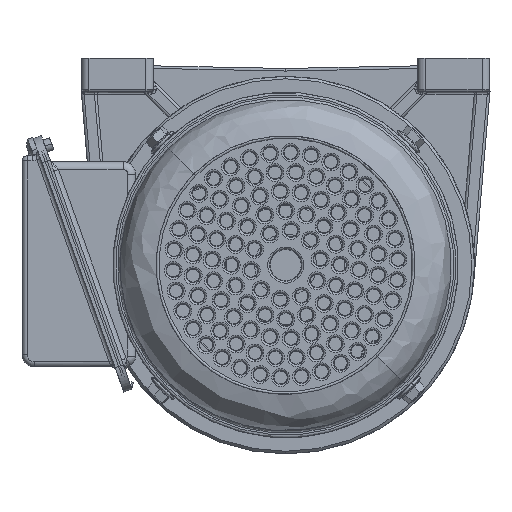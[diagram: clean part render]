
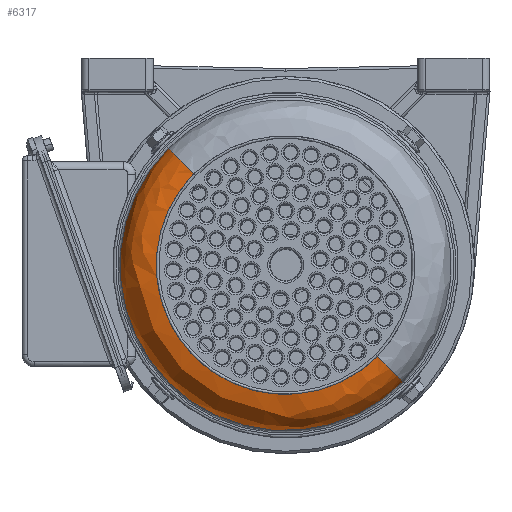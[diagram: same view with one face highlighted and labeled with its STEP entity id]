
A CAD part, front view. The second image highlights one B-rep face of the part: STEP entity #6317.
In plain terms, the highlighted free-form (B-spline) face has degree [3, 3] with [4, 4] control points.
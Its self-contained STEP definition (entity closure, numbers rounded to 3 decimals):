
#6268 = VERTEX_POINT ( 'NONE', #15583 ) ;
#6269 = VERTEX_POINT ( 'NONE', #15581 ) ;
#6307 = EDGE_CURVE ( 'NONE', #6308, #6269, #15629, .T. ) ;
#6308 = VERTEX_POINT ( 'NONE', #15624 ) ;
#6309 = ORIENTED_EDGE ( 'NONE', *, *, #6310, .F. ) ;
#6310 = EDGE_CURVE ( 'NONE', #6268, #6308, #15622, .T. ) ;
#6317 = ADVANCED_FACE ( 'NONE', ( #15652 ), #15637, .T. ) ;
#6318 = ORIENTED_EDGE ( 'NONE', *, *, #6319, .F. ) ;
#6319 = EDGE_CURVE ( 'NONE', #6320, #6268, #15636, .T. ) ;
#6320 = VERTEX_POINT ( 'NONE', #15664 ) ;
#6331 = EDGE_LOOP ( 'NONE', ( #6318, #6333, #6335, #6309 ) ) ;
#6333 = ORIENTED_EDGE ( 'NONE', *, *, #6334, .T. ) ;
#6334 = EDGE_CURVE ( 'NONE', #6320, #6269, #15657, .T. ) ;
#6335 = ORIENTED_EDGE ( 'NONE', *, *, #6307, .F. ) ;
#15581 = CARTESIAN_POINT ( 'NONE',  ( -64., 0., 29. ) ) ;
#15583 = CARTESIAN_POINT ( 'NONE',  ( 50., 0., 43. ) ) ;
#15618 = DIRECTION ( 'NONE',  ( 1., 0., 0. ) ) ;
#15619 = DIRECTION ( 'NONE',  ( 0., 1., 0. ) ) ;
#15620 = CARTESIAN_POINT ( 'NONE',  ( 50., 0., 29. ) ) ;
#15621 = AXIS2_PLACEMENT_3D ( 'NONE', #15620, #15619, #15618 ) ;
#15622 = CIRCLE ( 'NONE', #15621, 14. ) ;
#15624 = CARTESIAN_POINT ( 'NONE',  ( 64., 0., 29. ) ) ;
#15625 = DIRECTION ( 'NONE',  ( 1., 0., 0. ) ) ;
#15626 = DIRECTION ( 'NONE',  ( 0., 0., -1. ) ) ;
#15627 = CARTESIAN_POINT ( 'NONE',  ( 0., 0., 29. ) ) ;
#15628 = AXIS2_PLACEMENT_3D ( 'NONE', #15627, #15626, #15625 ) ;
#15629 = CIRCLE ( 'NONE', #15628, 64. ) ;
#15630 = CARTESIAN_POINT ( 'NONE',  ( -50., -100., 43. ) ) ;
#15631 = CARTESIAN_POINT ( 'NONE',  ( -50., 0., 43. ) ) ;
#15632 = DIRECTION ( 'NONE',  ( 1., 0., 0. ) ) ;
#15633 = DIRECTION ( 'NONE',  ( 0., 0., 1. ) ) ;
#15634 = CARTESIAN_POINT ( 'NONE',  ( 0., 0., 43. ) ) ;
#15635 = AXIS2_PLACEMENT_3D ( 'NONE', #15634, #15633, #15632 ) ;
#15636 = CIRCLE ( 'NONE', #15635, 50. ) ;
#15637 =( BOUNDED_SURFACE ( )  B_SPLINE_SURFACE ( 3, 3, ( 
 ( #15631, #15630, #15678, #15677 ),
 ( #15676, #15675, #15674, #15673 ),
 ( #15672, #15671, #15670, #15669 ),
 ( #15668, #15667, #15666, #15665 ) ),
 .UNSPECIFIED., .F., .F., .F. ) 
 B_SPLINE_SURFACE_WITH_KNOTS ( ( 4, 4 ),
 ( 4, 4 ),
 ( 0., 1. ),
 ( 0., 1. ),
 .UNSPECIFIED. ) 
 GEOMETRIC_REPRESENTATION_ITEM ( )  RATIONAL_B_SPLINE_SURFACE ( (
 ( 1., 0.333, 0.333, 1.),
 ( 0.805, 0.268, 0.268, 0.805),
 ( 0.805, 0.268, 0.268, 0.805),
 ( 1., 0.333, 0.333, 1.) ) ) 
 REPRESENTATION_ITEM ( '' )  SURFACE ( )  );
#15652 = FACE_OUTER_BOUND ( 'NONE', #6331, .T. ) ;
#15653 = DIRECTION ( 'NONE',  ( -1., 0., 0. ) ) ;
#15654 = DIRECTION ( 'NONE',  ( 0., -1., 0. ) ) ;
#15655 = CARTESIAN_POINT ( 'NONE',  ( -50., 0., 29. ) ) ;
#15656 = AXIS2_PLACEMENT_3D ( 'NONE', #15655, #15654, #15653 ) ;
#15657 = CIRCLE ( 'NONE', #15656, 14. ) ;
#15664 = CARTESIAN_POINT ( 'NONE',  ( -50., 0., 43. ) ) ;
#15665 = CARTESIAN_POINT ( 'NONE',  ( 64., 0., 29. ) ) ;
#15666 = CARTESIAN_POINT ( 'NONE',  ( 64., -128., 29. ) ) ;
#15667 = CARTESIAN_POINT ( 'NONE',  ( -64., -128., 29. ) ) ;
#15668 = CARTESIAN_POINT ( 'NONE',  ( -64., 0., 29. ) ) ;
#15669 = CARTESIAN_POINT ( 'NONE',  ( 64., 0., 37.201 ) ) ;
#15670 = CARTESIAN_POINT ( 'NONE',  ( 64., -128., 37.201 ) ) ;
#15671 = CARTESIAN_POINT ( 'NONE',  ( -64., -128., 37.201 ) ) ;
#15672 = CARTESIAN_POINT ( 'NONE',  ( -64., 0., 37.201 ) ) ;
#15673 = CARTESIAN_POINT ( 'NONE',  ( 58.201, 0., 43. ) ) ;
#15674 = CARTESIAN_POINT ( 'NONE',  ( 58.201, -116.402, 43. ) ) ;
#15675 = CARTESIAN_POINT ( 'NONE',  ( -58.201, -116.402, 43. ) ) ;
#15676 = CARTESIAN_POINT ( 'NONE',  ( -58.201, 0., 43. ) ) ;
#15677 = CARTESIAN_POINT ( 'NONE',  ( 50., 0., 43. ) ) ;
#15678 = CARTESIAN_POINT ( 'NONE',  ( 50., -100., 43. ) ) ;
